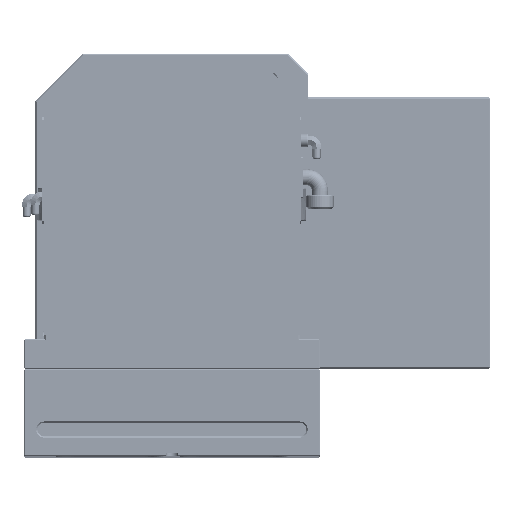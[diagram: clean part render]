
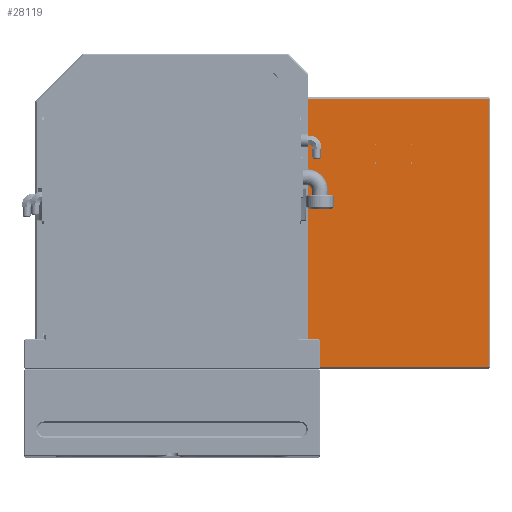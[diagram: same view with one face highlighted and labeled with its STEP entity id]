
A CAD part, top view. The second image highlights one B-rep face of the part: STEP entity #28119.
In plain terms, the highlighted planar face has unit normal (0, 0, 1).
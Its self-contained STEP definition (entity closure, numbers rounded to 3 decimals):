
#284 = CARTESIAN_POINT ( 'NONE',  ( 356., 72., 239. ) ) ;
#621 = LINE ( 'NONE', #93101, #101211 ) ;
#3228 = FACE_BOUND ( 'NONE', #95898, .T. ) ;
#3433 = AXIS2_PLACEMENT_3D ( 'NONE', #87340, #6631, #41388 ) ;
#3779 = AXIS2_PLACEMENT_3D ( 'NONE', #76403, #112407, #92944 ) ;
#4023 = ORIENTED_EDGE ( 'NONE', *, *, #54614, .T. ) ;
#5369 = CIRCLE ( 'NONE', #3433, 1. ) ;
#5812 = VERTEX_POINT ( 'NONE', #33623 ) ;
#6631 = DIRECTION ( 'NONE',  ( 0., 0., 1. ) ) ;
#7360 = CARTESIAN_POINT ( 'NONE',  ( 203., 171., 239. ) ) ;
#8700 = CIRCLE ( 'NONE', #19989, 1. ) ;
#10819 = CARTESIAN_POINT ( 'NONE',  ( 471., -231., 239. ) ) ;
#12155 = VERTEX_POINT ( 'NONE', #10819 ) ;
#12231 = CARTESIAN_POINT ( 'NONE',  ( 303., 101., 239. ) ) ;
#13484 = DIRECTION ( 'NONE',  ( 0., -1., 0. ) ) ;
#13503 = EDGE_LOOP ( 'NONE', ( #91677, #13919 ) ) ;
#13919 = ORIENTED_EDGE ( 'NONE', *, *, #82701, .F. ) ;
#13947 = EDGE_LOOP ( 'NONE', ( #65792, #86187 ) ) ;
#15597 = EDGE_CURVE ( 'NONE', #5812, #12155, #44119, .T. ) ;
#15814 = VERTEX_POINT ( 'NONE', #60228 ) ;
#17548 = CARTESIAN_POINT ( 'NONE',  ( 471., 171., 239. ) ) ;
#18394 = CARTESIAN_POINT ( 'NONE',  ( 356., 74., 239. ) ) ;
#19724 = PLANE ( 'NONE',  #113588 ) ;
#19989 = AXIS2_PLACEMENT_3D ( 'NONE', #87507, #53280, #77508 ) ;
#21051 = AXIS2_PLACEMENT_3D ( 'NONE', #12231, #55871, #100672 ) ;
#21462 = VERTEX_POINT ( 'NONE', #57729 ) ;
#21982 = CARTESIAN_POINT ( 'NONE',  ( 303., 74., 239. ) ) ;
#23381 = CIRCLE ( 'NONE', #30942, 1. ) ;
#24066 = DIRECTION ( 'NONE',  ( 0., 0., 1. ) ) ;
#25628 = DIRECTION ( 'NONE',  ( 0., -1., 0. ) ) ;
#27308 = VERTEX_POINT ( 'NONE', #18394 ) ;
#28119 = ADVANCED_FACE ( 'NONE', ( #93958, #39710, #56267, #3228, #47407 ), #19724, .F. ) ;
#30942 = AXIS2_PLACEMENT_3D ( 'NONE', #91036, #82174, #37380 ) ;
#32923 = DIRECTION ( 'NONE',  ( 0., 0., 1. ) ) ;
#33623 = CARTESIAN_POINT ( 'NONE',  ( 203., -231., 239. ) ) ;
#33886 = EDGE_CURVE ( 'NONE', #95902, #108681, #39290, .T. ) ;
#34339 = CARTESIAN_POINT ( 'NONE',  ( 303., 100., 239. ) ) ;
#35477 = DIRECTION ( 'NONE',  ( 0., 0., 1. ) ) ;
#35833 = CARTESIAN_POINT ( 'NONE',  ( 473., -231., 239. ) ) ;
#37115 = VERTEX_POINT ( 'NONE', #72888 ) ;
#37380 = DIRECTION ( 'NONE',  ( 0., -1., 0. ) ) ;
#38149 = EDGE_CURVE ( 'NONE', #27308, #107817, #92216, .T. ) ;
#39290 = CIRCLE ( 'NONE', #95777, 1. ) ;
#39710 = FACE_BOUND ( 'NONE', #115251, .T. ) ;
#41388 = DIRECTION ( 'NONE',  ( 0., -1., 0. ) ) ;
#41692 = ORIENTED_EDGE ( 'NONE', *, *, #76425, .F. ) ;
#44119 = LINE ( 'NONE', #35833, #73657 ) ;
#44666 = LINE ( 'NONE', #17548, #104813 ) ;
#44901 = CARTESIAN_POINT ( 'NONE',  ( 303., 101., 239. ) ) ;
#47100 = ORIENTED_EDGE ( 'NONE', *, *, #58696, .F. ) ;
#47407 = FACE_OUTER_BOUND ( 'NONE', #99138, .T. ) ;
#50024 = DIRECTION ( 'NONE',  ( -1., 0., 0. ) ) ;
#50197 = ORIENTED_EDGE ( 'NONE', *, *, #116393, .F. ) ;
#51158 = CARTESIAN_POINT ( 'NONE',  ( 356., 101., 239. ) ) ;
#51941 = CIRCLE ( 'NONE', #55668, 1. ) ;
#53280 = DIRECTION ( 'NONE',  ( 0., 0., 1. ) ) ;
#54614 = EDGE_CURVE ( 'NONE', #12155, #15814, #44666, .T. ) ;
#54895 = DIRECTION ( 'NONE',  ( 0., -1., 0. ) ) ;
#55668 = AXIS2_PLACEMENT_3D ( 'NONE', #51158, #32923, #106025 ) ;
#55871 = DIRECTION ( 'NONE',  ( 0., 0., 1. ) ) ;
#56267 = FACE_BOUND ( 'NONE', #13503, .T. ) ;
#57430 = DIRECTION ( 'NONE',  ( 0., 0., -1. ) ) ;
#57528 = VECTOR ( 'NONE', #25628, 1000. ) ;
#57729 = CARTESIAN_POINT ( 'NONE',  ( 303., 72., 239. ) ) ;
#58696 = EDGE_CURVE ( 'NONE', #105676, #21462, #23381, .T. ) ;
#58744 = CIRCLE ( 'NONE', #21051, 1. ) ;
#59003 = ORIENTED_EDGE ( 'NONE', *, *, #74892, .T. ) ;
#60228 = CARTESIAN_POINT ( 'NONE',  ( 471., 169., 239. ) ) ;
#61852 = AXIS2_PLACEMENT_3D ( 'NONE', #75958, #24066, #13484 ) ;
#63095 = EDGE_CURVE ( 'NONE', #97252, #37115, #5369, .T. ) ;
#65792 = ORIENTED_EDGE ( 'NONE', *, *, #80098, .F. ) ;
#66132 = ORIENTED_EDGE ( 'NONE', *, *, #63095, .F. ) ;
#69827 = EDGE_CURVE ( 'NONE', #15814, #96799, #621, .T. ) ;
#71375 = ORIENTED_EDGE ( 'NONE', *, *, #69827, .T. ) ;
#71805 = DIRECTION ( 'NONE',  ( 1., 0., 0. ) ) ;
#72888 = CARTESIAN_POINT ( 'NONE',  ( 356., 100., 239. ) ) ;
#73657 = VECTOR ( 'NONE', #71805, 1000. ) ;
#73948 = CARTESIAN_POINT ( 'NONE',  ( 473., 171., 239. ) ) ;
#74892 = EDGE_CURVE ( 'NONE', #96799, #5812, #97530, .T. ) ;
#75958 = CARTESIAN_POINT ( 'NONE',  ( 356., 73., 239. ) ) ;
#76403 = CARTESIAN_POINT ( 'NONE',  ( 356., 73., 239. ) ) ;
#76425 = EDGE_CURVE ( 'NONE', #37115, #97252, #51941, .T. ) ;
#77508 = DIRECTION ( 'NONE',  ( 0., -1., 0. ) ) ;
#80098 = EDGE_CURVE ( 'NONE', #107817, #27308, #103362, .T. ) ;
#80618 = DIRECTION ( 'NONE',  ( 0., 1., 0. ) ) ;
#82174 = DIRECTION ( 'NONE',  ( 0., 0., 1. ) ) ;
#82701 = EDGE_CURVE ( 'NONE', #108681, #95902, #58744, .T. ) ;
#86187 = ORIENTED_EDGE ( 'NONE', *, *, #38149, .F. ) ;
#87340 = CARTESIAN_POINT ( 'NONE',  ( 356., 101., 239. ) ) ;
#87507 = CARTESIAN_POINT ( 'NONE',  ( 303., 73., 239. ) ) ;
#89598 = CARTESIAN_POINT ( 'NONE',  ( 356., 102., 239. ) ) ;
#91036 = CARTESIAN_POINT ( 'NONE',  ( 303., 73., 239. ) ) ;
#91677 = ORIENTED_EDGE ( 'NONE', *, *, #33886, .F. ) ;
#91759 = CARTESIAN_POINT ( 'NONE',  ( 303., 102., 239. ) ) ;
#92216 = CIRCLE ( 'NONE', #3779, 1. ) ;
#92806 = DIRECTION ( 'NONE',  ( 0., 1., 0. ) ) ;
#92944 = DIRECTION ( 'NONE',  ( 0., -1., 0. ) ) ;
#93101 = CARTESIAN_POINT ( 'NONE',  ( 473., 169., 239. ) ) ;
#93958 = FACE_BOUND ( 'NONE', #13947, .T. ) ;
#95777 = AXIS2_PLACEMENT_3D ( 'NONE', #44901, #35477, #54895 ) ;
#95898 = EDGE_LOOP ( 'NONE', ( #41692, #66132 ) ) ;
#95902 = VERTEX_POINT ( 'NONE', #34339 ) ;
#96799 = VERTEX_POINT ( 'NONE', #113423 ) ;
#97252 = VERTEX_POINT ( 'NONE', #89598 ) ;
#97530 = LINE ( 'NONE', #7360, #57528 ) ;
#99138 = EDGE_LOOP ( 'NONE', ( #59003, #106600, #4023, #71375 ) ) ;
#100672 = DIRECTION ( 'NONE',  ( 0., -1., 0. ) ) ;
#101211 = VECTOR ( 'NONE', #50024, 1000. ) ;
#103362 = CIRCLE ( 'NONE', #61852, 1. ) ;
#104813 = VECTOR ( 'NONE', #80618, 1000. ) ;
#105676 = VERTEX_POINT ( 'NONE', #21982 ) ;
#106025 = DIRECTION ( 'NONE',  ( 0., -1., 0. ) ) ;
#106600 = ORIENTED_EDGE ( 'NONE', *, *, #15597, .T. ) ;
#107817 = VERTEX_POINT ( 'NONE', #284 ) ;
#108681 = VERTEX_POINT ( 'NONE', #91759 ) ;
#112407 = DIRECTION ( 'NONE',  ( 0., 0., 1. ) ) ;
#113423 = CARTESIAN_POINT ( 'NONE',  ( 203., 169., 239. ) ) ;
#113588 = AXIS2_PLACEMENT_3D ( 'NONE', #73948, #57430, #92806 ) ;
#115251 = EDGE_LOOP ( 'NONE', ( #50197, #47100 ) ) ;
#116393 = EDGE_CURVE ( 'NONE', #21462, #105676, #8700, .T. ) ;
